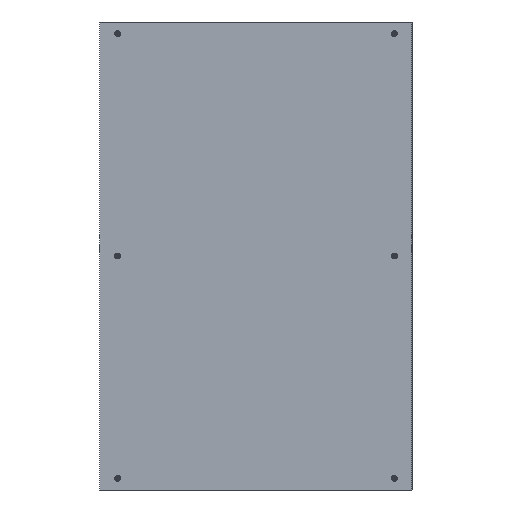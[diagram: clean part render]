
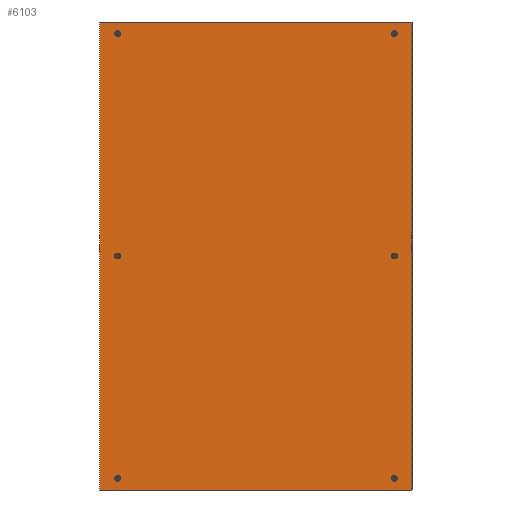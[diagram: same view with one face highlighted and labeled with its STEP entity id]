
A CAD part, left-side view. The second image highlights one B-rep face of the part: STEP entity #6103.
In plain terms, the highlighted planar face has unit normal (-1, 0, 0).
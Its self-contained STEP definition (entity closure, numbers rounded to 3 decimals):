
#533=CIRCLE('',#7997,5.125);
#535=CIRCLE('',#8000,5.125);
#537=CIRCLE('',#8003,5.125);
#539=CIRCLE('',#8006,5.125);
#541=CIRCLE('',#8009,5.125);
#542=CIRCLE('',#8042,5.125);
#1797=ORIENTED_EDGE('',*,*,#2841,.T.);
#1798=ORIENTED_EDGE('',*,*,#2842,.T.);
#1799=ORIENTED_EDGE('',*,*,#2843,.T.);
#1800=ORIENTED_EDGE('',*,*,#2844,.T.);
#1801=ORIENTED_EDGE('',*,*,#2723,.F.);
#1802=ORIENTED_EDGE('',*,*,#2725,.F.);
#1803=ORIENTED_EDGE('',*,*,#2727,.F.);
#1804=ORIENTED_EDGE('',*,*,#2729,.F.);
#1805=ORIENTED_EDGE('',*,*,#2731,.F.);
#1806=ORIENTED_EDGE('',*,*,#2845,.F.);
#2723=EDGE_CURVE('',#3357,#3357,#533,.T.);
#2725=EDGE_CURVE('',#3359,#3359,#535,.T.);
#2727=EDGE_CURVE('',#3361,#3361,#537,.T.);
#2729=EDGE_CURVE('',#3363,#3363,#539,.T.);
#2731=EDGE_CURVE('',#3365,#3365,#541,.T.);
#2841=EDGE_CURVE('',#3448,#3449,#4026,.T.);
#2842=EDGE_CURVE('',#3449,#3450,#4027,.T.);
#2843=EDGE_CURVE('',#3450,#3451,#4028,.T.);
#2844=EDGE_CURVE('',#3451,#3448,#4029,.T.);
#2845=EDGE_CURVE('',#3452,#3452,#542,.T.);
#3357=VERTEX_POINT('',#11137);
#3359=VERTEX_POINT('',#11142);
#3361=VERTEX_POINT('',#11147);
#3363=VERTEX_POINT('',#11152);
#3365=VERTEX_POINT('',#11157);
#3448=VERTEX_POINT('',#11382);
#3449=VERTEX_POINT('',#11383);
#3450=VERTEX_POINT('',#11385);
#3451=VERTEX_POINT('',#11387);
#3452=VERTEX_POINT('',#11390);
#4026=LINE('',#11381,#4606);
#4027=LINE('',#11384,#4607);
#4028=LINE('',#11386,#4608);
#4029=LINE('',#11388,#4609);
#4606=VECTOR('',#9553,1000.);
#4607=VECTOR('',#9554,1000.);
#4608=VECTOR('',#9555,1000.);
#4609=VECTOR('',#9556,1000.);
#5031=EDGE_LOOP('',(#1797,#1798,#1799,#1800));
#5032=EDGE_LOOP('',(#1801));
#5033=EDGE_LOOP('',(#1802));
#5034=EDGE_LOOP('',(#1803));
#5035=EDGE_LOOP('',(#1804));
#5036=EDGE_LOOP('',(#1805));
#5037=EDGE_LOOP('',(#1806));
#5477=FACE_BOUND('',#5031,.T.);
#5478=FACE_BOUND('',#5032,.T.);
#5479=FACE_BOUND('',#5033,.T.);
#5480=FACE_BOUND('',#5034,.T.);
#5481=FACE_BOUND('',#5035,.T.);
#5482=FACE_BOUND('',#5036,.T.);
#5483=FACE_BOUND('',#5037,.T.);
#5784=PLANE('',#8041);
#6103=ADVANCED_FACE('',(#5477,#5478,#5479,#5480,#5481,#5482,#5483),#5784,
 .T.);
#7997=AXIS2_PLACEMENT_3D('',#11136,#9354,#9355);
#8000=AXIS2_PLACEMENT_3D('',#11141,#9360,#9361);
#8003=AXIS2_PLACEMENT_3D('',#11146,#9366,#9367);
#8006=AXIS2_PLACEMENT_3D('',#11151,#9372,#9373);
#8009=AXIS2_PLACEMENT_3D('',#11156,#9378,#9379);
#8041=AXIS2_PLACEMENT_3D('',#11380,#9551,#9552);
#8042=AXIS2_PLACEMENT_3D('',#11389,#9557,#9558);
#9354=DIRECTION('',(-1.,0.,0.));
#9355=DIRECTION('',(0.,-1.,0.));
#9360=DIRECTION('',(-1.,0.,0.));
#9361=DIRECTION('',(0.,-1.,0.));
#9366=DIRECTION('',(-1.,0.,0.));
#9367=DIRECTION('',(0.,-1.,0.));
#9372=DIRECTION('',(-1.,0.,0.));
#9373=DIRECTION('',(0.,-1.,0.));
#9378=DIRECTION('',(-1.,0.,0.));
#9379=DIRECTION('',(0.,-1.,0.));
#9551=DIRECTION('',(-1.,0.,0.));
#9552=DIRECTION('',(0.,-1.,0.));
#9553=DIRECTION('',(0.,1.,0.));
#9554=DIRECTION('',(0.,0.,-1.));
#9555=DIRECTION('',(0.,-1.,0.));
#9556=DIRECTION('',(0.,0.,1.));
#9557=DIRECTION('',(-1.,0.,0.));
#9558=DIRECTION('',(0.,-1.,0.));
#11136=CARTESIAN_POINT('',(-1.5,355.,-570.));
#11137=CARTESIAN_POINT('',(-1.5,349.875,-570.));
#11141=CARTESIAN_POINT('',(-1.5,355.,0.));
#11142=CARTESIAN_POINT('',(-1.5,349.875,0.));
#11146=CARTESIAN_POINT('',(-1.5,355.,570.));
#11147=CARTESIAN_POINT('',(-1.5,349.875,570.));
#11151=CARTESIAN_POINT('',(-1.5,-355.,-570.));
#11152=CARTESIAN_POINT('',(-1.5,-360.125,-570.));
#11156=CARTESIAN_POINT('',(-1.5,-355.,0.));
#11157=CARTESIAN_POINT('',(-1.5,-360.125,0.));
#11380=CARTESIAN_POINT('',(-1.5,0.,0.));
#11381=CARTESIAN_POINT('',(-1.5,0.,600.));
#11382=CARTESIAN_POINT('',(-1.5,-400.,600.));
#11383=CARTESIAN_POINT('',(-1.5,400.,600.));
#11384=CARTESIAN_POINT('',(-1.5,400.,0.));
#11385=CARTESIAN_POINT('',(-1.5,400.,-600.));
#11386=CARTESIAN_POINT('',(-1.5,0.,-600.));
#11387=CARTESIAN_POINT('',(-1.5,-400.,-600.));
#11388=CARTESIAN_POINT('',(-1.5,-400.,0.));
#11389=CARTESIAN_POINT('',(-1.5,-355.,570.));
#11390=CARTESIAN_POINT('',(-1.5,-360.125,570.));
